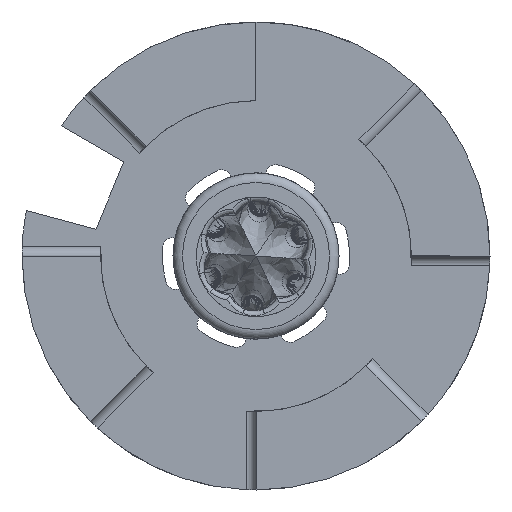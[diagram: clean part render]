
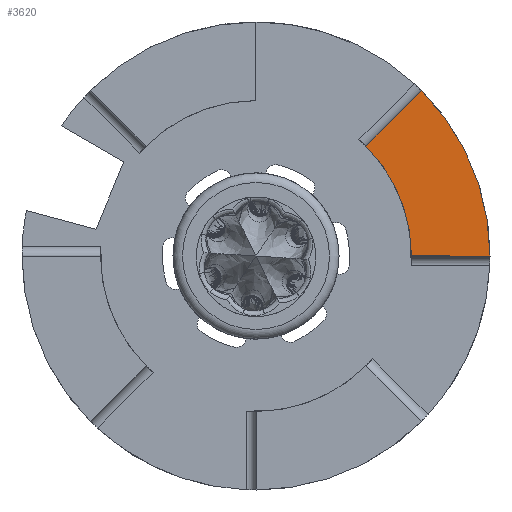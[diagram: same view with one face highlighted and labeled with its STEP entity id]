
A CAD part, front view. The second image highlights one B-rep face of the part: STEP entity #3620.
In plain terms, the highlighted planar face has unit normal (0, -1, 0).
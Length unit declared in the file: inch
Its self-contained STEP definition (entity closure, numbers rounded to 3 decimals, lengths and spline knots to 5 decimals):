
#88=PLANE('',#3851);
#266=FACE_OUTER_BOUND('',#452,.T.);
#452=EDGE_LOOP('',(#2804,#2805,#2806,#2807));
#654=CIRCLE('',#3849,0.3248);
#655=CIRCLE('',#3852,0.48906);
#1060=LINE('',#9376,#1204);
#1063=LINE('',#9382,#1207);
#1204=VECTOR('',#4274,0.3937);
#1207=VECTOR('',#4279,0.3937);
#1540=VERTEX_POINT('',#9348);
#1542=VERTEX_POINT('',#9371);
#1543=VERTEX_POINT('',#9375);
#1545=VERTEX_POINT('',#9381);
#2025=EDGE_CURVE('',#1540,#1542,#654,.T.);
#2026=EDGE_CURVE('',#1543,#1540,#1060,.T.);
#2029=EDGE_CURVE('',#1542,#1545,#1063,.T.);
#2030=EDGE_CURVE('',#1545,#1543,#655,.F.);
#2804=ORIENTED_EDGE('',*,*,#2025,.T.);
#2805=ORIENTED_EDGE('',*,*,#2029,.T.);
#2806=ORIENTED_EDGE('',*,*,#2030,.T.);
#2807=ORIENTED_EDGE('',*,*,#2026,.T.);
#3620=ADVANCED_FACE('',(#266),#88,.T.);
#3849=AXIS2_PLACEMENT_3D('',#9373,#4270,#4271);
#3851=AXIS2_PLACEMENT_3D('',#9380,#4277,#4278);
#3852=AXIS2_PLACEMENT_3D('',#9383,#4280,#4281);
#4270=DIRECTION('center_axis',(0.,1.,0.));
#4271=DIRECTION('ref_axis',(1.,0.,0.));
#4274=DIRECTION('',(-0.707,0.,-0.707));
#4277=DIRECTION('center_axis',(0.,-1.,0.));
#4278=DIRECTION('ref_axis',(0.,0.,-1.));
#4279=DIRECTION('',(1.,0.,0.));
#4280=DIRECTION('center_axis',(0.,1.,0.));
#4281=DIRECTION('ref_axis',(1.,0.,0.));
#9348=CARTESIAN_POINT('',(0.22967,4.,0.22967));
#9371=CARTESIAN_POINT('',(0.3248,4.,0.));
#9373=CARTESIAN_POINT('Origin',(0.,4.,0.));
#9375=CARTESIAN_POINT('',(0.34581,4.,0.34581));
#9376=CARTESIAN_POINT('',(0.39048,4.,0.39048));
#9380=CARTESIAN_POINT('Origin',(0.32649,4.,0.15203));
#9381=CARTESIAN_POINT('',(0.48906,4.,0.));
#9382=CARTESIAN_POINT('',(0.,4.,0.));
#9383=CARTESIAN_POINT('Origin',(0.,4.,0.));
